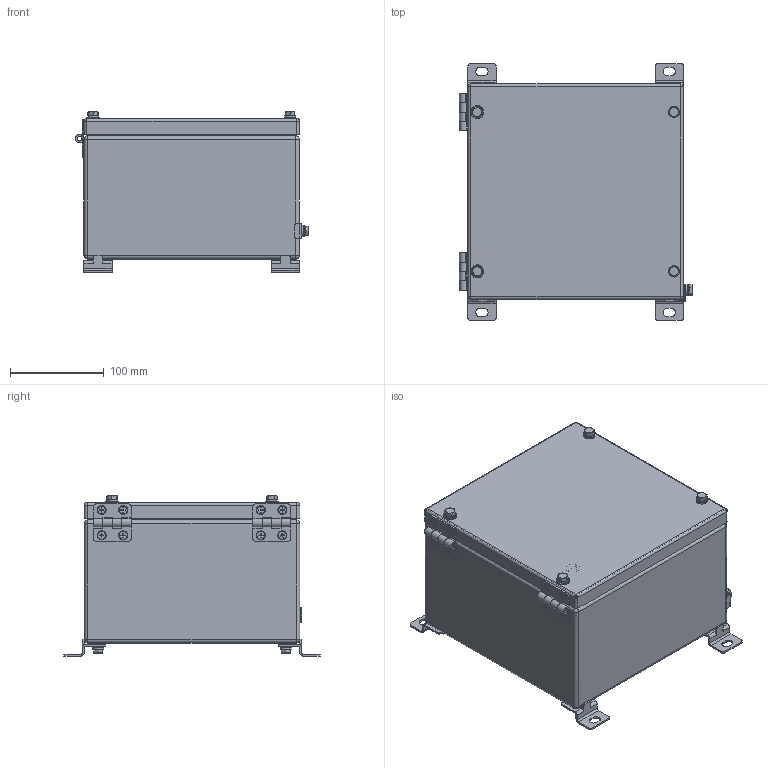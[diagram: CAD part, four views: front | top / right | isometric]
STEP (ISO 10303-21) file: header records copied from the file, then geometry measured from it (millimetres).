
FILE_DESCRIPTION((''),'2;1');
FILE_NAME('C:\OGURNAYA\Готовые чертежи\ТЗ 2019\43786\КСРВ-Н232315.stp','2019-08-05T09:44:02',('A.S.Kozlov'),(''),'Autodesk Inventor 2012','Autodesk Inventor 2012','');
FILE_SCHEMA(('CONFIG_CONTROL_DESIGN'));
Length unit declared in the file: millimetre
Products named in the file (1): КСРВ-(параметрическая модель)_Внешний контур_1
Bounding box: 248.69 x 274 x 171.2 mm (x, y, z)
Surface area: 631037.3 mm2 (no closed solid volume)
Topology: 0 solids, 62 shells, 1338 faces, 3047 edges, 1917 vertices
Faces by surface type: plane 658, cylinder 390, cone 164, torus 74, sphere 28, bspline 24
Full cylindrical faces by diameter (mm): 1 x6, 3.242 x4, 3.571 x8, 4 x8, 4.917 x11, 5 x8, 5.459 x5, 5.9 x8, 6 x9, 6.1 x4, 6.4 x7, 6.9 x4, 7 x6, 7.5 x13, 8 x6, 8.4 x8, 8.7 x5, 9 x15, 10 x2, 12 x17, 12.7 x4, 14 x2, 15 x3
Entity records: 38354 total; most frequent: CARTESIAN_POINT 7977, DIRECTION 6146, ORIENTED_EDGE 5470, EDGE_CURVE 2735, AXIS2_PLACEMENT_3D 2416, VERTEX_POINT 1879, EDGE_LOOP 1792, FACE_OUTER_BOUND 1338
